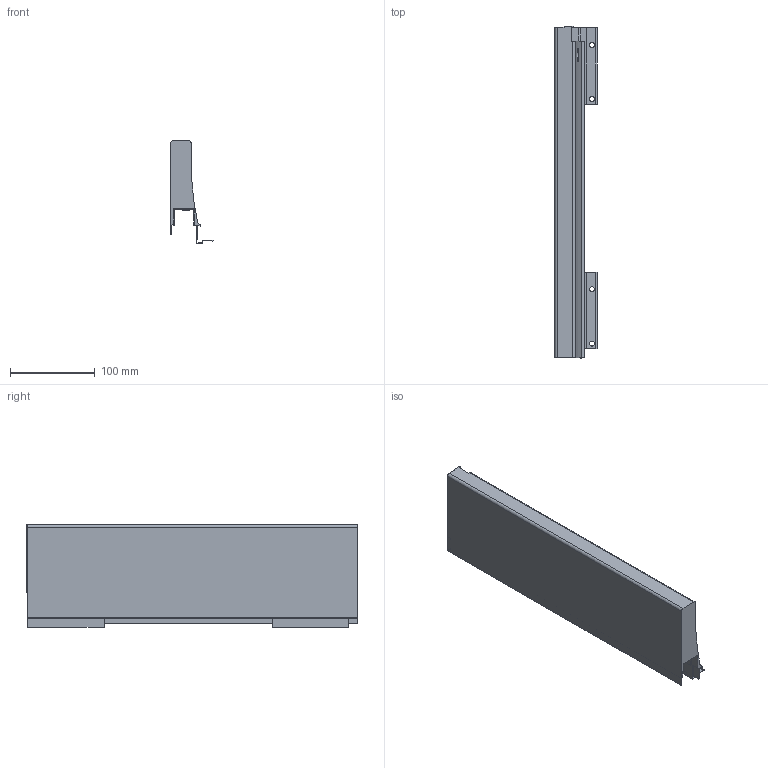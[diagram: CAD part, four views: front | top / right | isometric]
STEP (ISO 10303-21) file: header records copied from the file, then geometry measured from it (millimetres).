
FILE_DESCRIPTION (( 'STEP AP214' ), '1' );
FILE_NAME ('_XP Agantis Dekorseite H127 NL400 LI.step', '2010-07-08T06:22:14', ( 'grass' ), ( '' ), 'SwSTEP 2.0', 'SolidWorks 2010', '' );
FILE_SCHEMA (( 'AUTOMOTIVE_DESIGN' ));
Length unit declared in the file: millimetre
Products named in the file (1): _XP Agantis Dekorseite H127 NL400 LI
Bounding box: 50.01 x 391.5 x 121.5 mm (x, y, z)
Volume: 847863.1 mm3; surface area: 155626.9 mm2
Topology: 1 solids, 1 shells, 119 faces, 343 edges, 225 vertices
Faces by surface type: plane 94, cylinder 25
Entity records: 3999 total; most frequent: CARTESIAN_POINT 775, ORIENTED_EDGE 686, DIRECTION 630, EDGE_CURVE 343, VECTOR 292, LINE 292, VERTEX_POINT 225, AXIS2_PLACEMENT_3D 169
